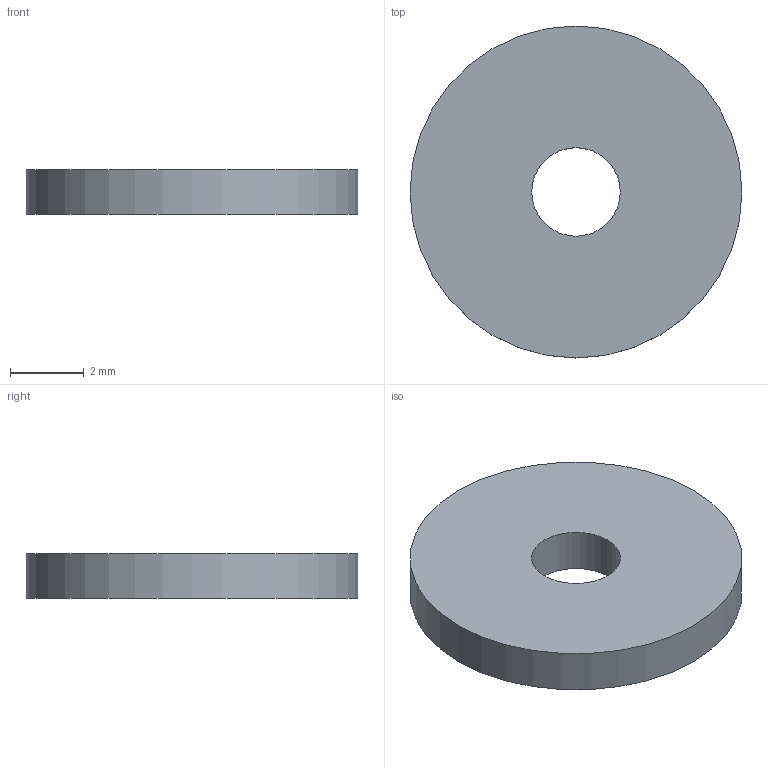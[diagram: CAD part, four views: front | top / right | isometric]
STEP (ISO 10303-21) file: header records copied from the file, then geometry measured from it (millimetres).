
FILE_DESCRIPTION(('Open CASCADE Model'),'2;1');
FILE_NAME('Open CASCADE Shape Model','2026-10-20T15:49:48',('Author'),( 'Open CASCADE'),'Open CASCADE STEP processor 7.8','Open CASCADE 7.8' ,'Unknown');
FILE_SCHEMA(('AUTOMOTIVE_DESIGN { 1 0 10303 214 1 1 1 1 }'));
Length unit declared in the file: millimetre
Products named in the file (1): Open CASCADE STEP translator 7.8 15
Bounding box: 9 x 9 x 1.2 mm (x, y, z)
Volume: 70.9 mm3; surface area: 161.2 mm2
Topology: 1 solids, 1 shells, 4 faces, 6 edges, 4 vertices
Faces by surface type: cylinder 2, plane 2
Full cylindrical faces by diameter (mm): 2.4 x1, 9 x1
Entity records: 192 total; most frequent: CARTESIAN_POINT 39, DIRECTION 30, ORIENTED_EDGE 12, PCURVE 12, DEFINITIONAL_REPRESENTATION 12, LINE 10, VECTOR 10, AXIS2_PLACEMENT_3D 9
